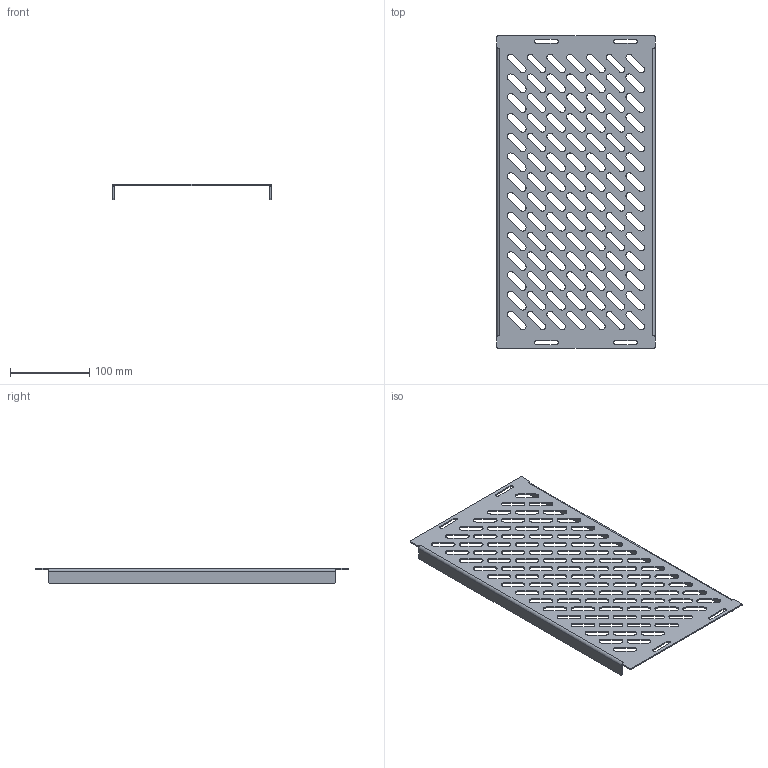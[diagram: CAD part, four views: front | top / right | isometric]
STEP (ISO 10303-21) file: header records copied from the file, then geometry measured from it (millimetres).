
FILE_DESCRIPTION(('STEP AP203'), '1');
FILE_NAME('3007 Ïàíåëü íà äíî ïîäâèæíàÿ', '', ('UNSPECIFIED'), ('UNSPECIFIED'), 'C3D Converter', 'C3D Toolkit', '');
FILE_SCHEMA(('CONFIG_CONTROL_DESIGN'));
Length unit declared in the file: millimetre
Products named in the file (1): 3007.100.200.П
Bounding box: 200 x 395 x 19 mm (x, y, z)
Volume: 100180.7 mm3; surface area: 146128.2 mm2
Topology: 1 solids, 1 shells, 454 faces, 1340 edges, 888 vertices
Faces by surface type: plane 230, cylinder 224
Entity records: 15692 total; most frequent: DIRECTION 2698, CARTESIAN_POINT 2683, ORIENTED_EDGE 2680, EDGE_CURVE 1340, AXIS2_PLACEMENT_3D 903, LINE 892, VECTOR 892, VERTEX_POINT 888
